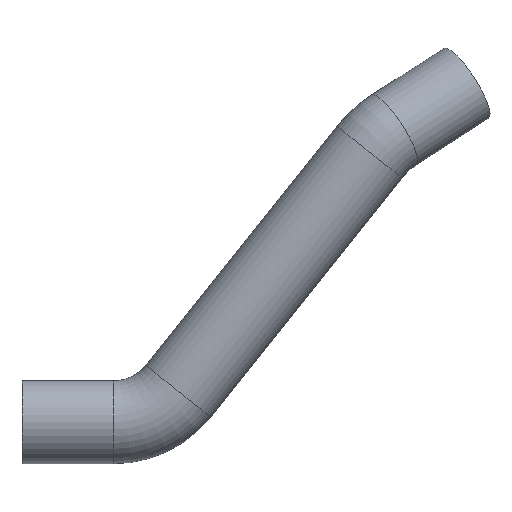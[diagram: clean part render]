
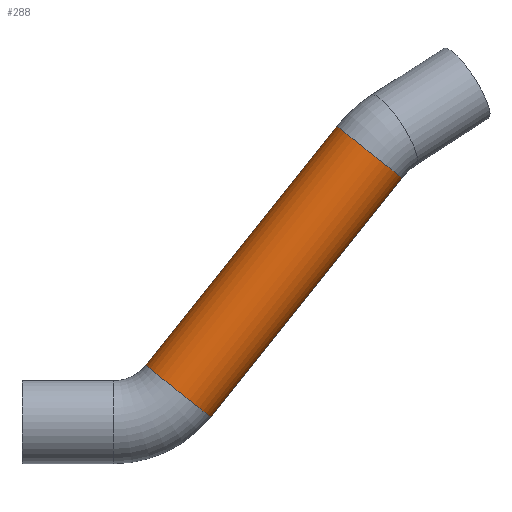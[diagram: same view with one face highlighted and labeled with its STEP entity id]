
A CAD part, top view. The second image highlights one B-rep face of the part: STEP entity #288.
In plain terms, the highlighted cylindrical face has radius 25 mm (diameter 50 mm), a full revolution.
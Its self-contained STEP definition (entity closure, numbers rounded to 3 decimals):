
#192=VERTEX_POINT('',#673);
#194=VERTEX_POINT('',#679);
#204=EDGE_CURVE('',#192,#192,#333,.T.);
#206=EDGE_CURVE('',#194,#194,#335,.T.);
#220=ORIENTED_EDGE('',*,*,#204,.T.);
#221=ORIENTED_EDGE('',*,*,#206,.F.);
#244=EDGE_LOOP('',(#220));
#245=EDGE_LOOP('',(#221));
#268=FACE_BOUND('',#244,.T.);
#269=FACE_BOUND('',#245,.T.);
#288=ADVANCED_FACE('',(#268,#269),#298,.T.);
#298=CYLINDRICAL_SURFACE('',#528,25.);
#333=CIRCLE('',#525,25.);
#335=CIRCLE('',#529,25.);
#525=AXIS2_PLACEMENT_3D('',#672,#740,#741);
#528=AXIS2_PLACEMENT_3D('',#677,#745,#746);
#529=AXIS2_PLACEMENT_3D('',#678,#747,#748);
#672=CARTESIAN_POINT('',(209.366,162.868,0.));
#673=CARTESIAN_POINT('',(209.366,162.868,-25.));
#677=CARTESIAN_POINT('',(94.089,18.766,0.));
#678=CARTESIAN_POINT('',(94.089,18.766,0.));
#679=CARTESIAN_POINT('',(94.089,18.766,-25.));
#740=DIRECTION('',(-0.625,-0.781,0.));
#741=DIRECTION('',(0.,0.,-25.));
#745=DIRECTION('',(0.625,0.781,0.));
#746=DIRECTION('',(0.,0.,-25.));
#747=DIRECTION('',(-0.625,-0.781,0.));
#748=DIRECTION('',(0.,0.,-25.));
